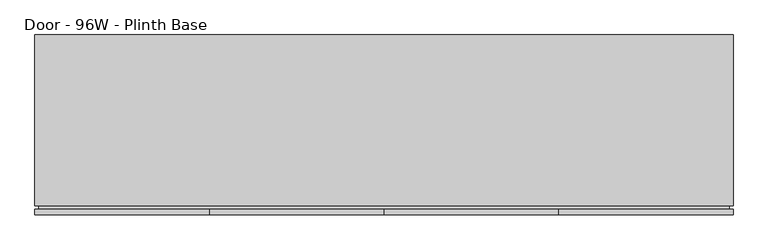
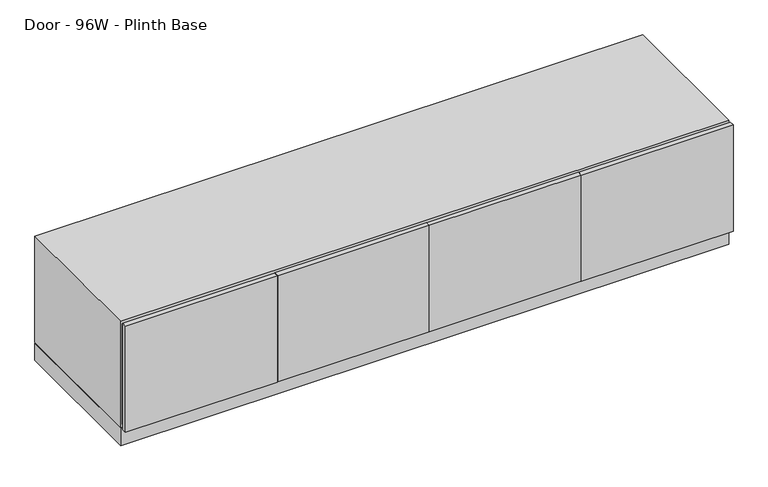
"""IFC4 building model written with IfcOpenShell, lengths in millimetres: furniture geometry, Steelcase Coalesse - Exponents - Storage - Credenza - 21H : Door - 96W - Plinth Base."""

import ifcopenshell
import ifcopenshell.guid

model = None  # the IFC model being written
_history = None  # IfcOwnerHistory: only IFC2X3 demands one
_inside = {}  # id of a spatial element -> (the spatial element, [elements in it])
_under = {}  # id of a project, library or spatial element -> (it, [spatial elements below it])
_declared = {}  # id of a project -> (the project, [libraries it declares])
_typed = {}  # id of a type object -> (the type object, [elements of that type])
_made_of = {}  # id of a material, layer set ... -> (it, [elements and type objects made of it])


def new_model(schema):
    """Start an empty IFC model of exactly this schema.

    Asked for "IFC4X3", IfcOpenShell would pick the latest addendum, in which some entities
    have other attributes; the version numbers below select the first issue.
    IFC2X3 requires an IfcOwnerHistory on every rooted entity: one is made here for all.
    """
    global model, _history
    if schema == "IFC4X3":
        model = ifcopenshell.file(schema_version=(4, 3, 0, 0))
    else:
        model = ifcopenshell.file(schema=schema)
    _inside.clear()
    _under.clear()
    _declared.clear()
    _typed.clear()
    _made_of.clear()
    _history = None
    if model.schema == "IFC2X3":
        org = make("IfcOrganization", Name="unknown")
        user = make(
            "IfcPersonAndOrganization",
            ThePerson=make("IfcPerson", FamilyName="unknown"),
            TheOrganization=org,
        )
        app = make(
            "IfcApplication",
            ApplicationDeveloper=org,
            Version="unknown",
            ApplicationFullName="unknown",
            ApplicationIdentifier="unknown",
        )
        _history = make(
            "IfcOwnerHistory",
            OwningUser=user,
            OwningApplication=app,
            ChangeAction="ADDED",
            CreationDate=0,
        )
    return model


def make(cls, **values):
    """One entity of the class cls with the attributes given. An attribute that is None is left unset."""
    return model.create_entity(
        cls, **{name: value for name, value in values.items() if value is not None}
    )


def rooted(cls, **values):
    """An entity with a GlobalId (a new one), such as an element, a storey or a relation."""
    return make(cls, GlobalId=ifcopenshell.guid.new(), OwnerHistory=_history, **values)


def si_unit(unit_type, name, prefix=None):
    """IfcSIUnit, for example si_unit("LENGTHUNIT", "METRE", prefix="MILLI")."""
    return make("IfcSIUnit", UnitType=unit_type, Prefix=prefix, Name=name)


def assignment(units):
    """IfcUnitAssignment: the units of a project."""
    return None if units is None else make("IfcUnitAssignment", Units=units)


def point(xyz):
    """IfcCartesianPoint."""
    return None if xyz is None else make("IfcCartesianPoint", Coordinates=xyz)


def direction(xyz):
    """IfcDirection."""
    return None if xyz is None else make("IfcDirection", DirectionRatios=xyz)


def frame(location, z_axis=None, x_axis=None):
    """IfcAxis2Placement3D, a coordinate frame: its origin and axes. An axis left out is left unset."""
    return make(
        "IfcAxis2Placement3D",
        Location=point(location),
        Axis=direction(z_axis),
        RefDirection=direction(x_axis),
    )


def frame_2d(location, x_axis=None):
    """IfcAxis2Placement2D, a coordinate frame in the plane: its origin and x axis."""
    return make(
        "IfcAxis2Placement2D", Location=point(location), RefDirection=direction(x_axis)
    )


def origin():
    """The frame at (0, 0, 0) with its axes left unset."""
    return frame((0.0, 0.0, 0.0))


def origin_with_axes():
    """The frame at (0, 0, 0) with the z axis (0, 0, 1) and the x axis (1, 0, 0) written out."""
    return frame((0.0, 0.0, 0.0), z_axis=(0.0, 0.0, 1.0), x_axis=(1.0, 0.0, 0.0))


def place(relative_to, where):
    """IfcLocalPlacement: puts the frame where relative to a parent placement (None: the world)."""
    return make(
        "IfcLocalPlacement", PlacementRelTo=relative_to, RelativePlacement=where
    )


def context(
    kind, dimensions, precision=None, world=None, true_north=None, identifier=None
):
    """IfcGeometricRepresentationContext, for example the 3D "Model" context."""
    return make(
        "IfcGeometricRepresentationContext",
        ContextIdentifier=identifier,
        ContextType=kind,
        CoordinateSpaceDimension=dimensions,
        Precision=precision,
        WorldCoordinateSystem=world,
        TrueNorth=true_north,
    )


def project(units=None, contexts=None):
    """IfcProject with its units and contexts."""
    return rooted(
        "IfcProject",
        Name="project",
        RepresentationContexts=contexts,
        UnitsInContext=assignment(units),
    )


def spatial(cls, under=None, at=None, **own):
    """A site, building, storey or space (cls), placed at a placement, below another one or the project."""
    s = rooted(cls, ObjectPlacement=at, **own)
    if under is not None:
        _under.setdefault(under.id(), (under, []))[1].append(s)
    return s


def polyline(points):
    """IfcPolyline through the points."""
    return make("IfcPolyline", Points=[point(p) for p in points])


def circle_curve(where, radius):
    """IfcCircle in the frame where."""
    return make("IfcCircle", Position=where, Radius=radius)


def trimmed(basis, trim1, trim2, sense, master):
    """IfcTrimmedCurve: the piece of a basis curve between two trims."""
    return make(
        "IfcTrimmedCurve",
        BasisCurve=basis,
        Trim1=trim1,
        Trim2=trim2,
        SenseAgreement=sense,
        MasterRepresentation=master,
    )


def segment(curve, same_sense, transition):
    """IfcCompositeCurveSegment."""
    return make(
        "IfcCompositeCurveSegment",
        Transition=transition,
        SameSense=same_sense,
        ParentCurve=curve,
    )


def composite_curve(segments, self_intersect=None):
    """IfcCompositeCurve: segments joined end to end."""
    return make("IfcCompositeCurve", Segments=segments, SelfIntersect=self_intersect)


def outline(outer, holes=None, kind="AREA"):
    """IfcArbitraryClosedProfileDef: a profile drawn as a closed curve; with holes, ...WithVoids."""
    if holes is None:
        return make("IfcArbitraryClosedProfileDef", ProfileType=kind, OuterCurve=outer)
    return make(
        "IfcArbitraryProfileDefWithVoids",
        ProfileType=kind,
        OuterCurve=outer,
        InnerCurves=holes,
    )


def extrude(swept, where, along, depth):
    """IfcExtrudedAreaSolid: the profile swept, set in the frame where, extruded along a direction by depth."""
    return make(
        "IfcExtrudedAreaSolid",
        SweptArea=swept,
        Position=where,
        ExtrudedDirection=direction(along),
        Depth=depth,
    )


def faces_of(points, faces, orient=None, outer=None):
    """IfcFace entities. A face is a list of loops; a loop is a list of indices into points, from 0.

    orient and outer hold one flag for each loop. By default every Orientation is true, the
    first loop of a face is its IfcFaceOuterBound and the others are IfcFaceBound.
    """
    made = []
    for i, loops in enumerate(faces):
        bounds = []
        for j, loop in enumerate(loops):
            is_outer = j == 0 if outer is None else outer[i][j]
            bounds.append(
                make(
                    "IfcFaceOuterBound" if is_outer else "IfcFaceBound",
                    Bound=make("IfcPolyLoop", Polygon=[points[k] for k in loop]),
                    Orientation=True if orient is None else orient[i][j],
                )
            )
        made.append(make("IfcFace", Bounds=bounds))
    return made


def faceted_brep(points, faces, orient=None, outer=None, voids=None):
    """IfcFacetedBrep: a solid bounded by flat faces; with voids (closed shells), ...WithVoids."""
    shared = [point(p) for p in points]
    hull = make("IfcClosedShell", CfsFaces=faces_of(shared, faces, orient, outer))
    if voids is None:
        return make("IfcFacetedBrep", Outer=hull)
    return make(
        "IfcFacetedBrepWithVoids",
        Outer=hull,
        Voids=[
            make(cls, CfsFaces=faces_of(shared, fs, o, b)) for cls, fs, o, b in voids
        ],
    )


def shape(context_of_items, identifier, shape_type, items):
    """IfcShapeRepresentation: the items that make up one representation, for example the "Body"."""
    return make(
        "IfcShapeRepresentation",
        ContextOfItems=context_of_items,
        RepresentationIdentifier=identifier,
        RepresentationType=shape_type,
        Items=items,
    )


def source(mapping_origin, context_of_items, identifier, shape_type, items):
    """IfcRepresentationMap: a shape defined once, which mapped items show again and again."""
    return make(
        "IfcRepresentationMap",
        MappingOrigin=mapping_origin,
        MappedRepresentation=shape(context_of_items, identifier, shape_type, items),
    )


def transform(
    local_origin,
    x_axis=None,
    y_axis=None,
    z_axis=None,
    scale=None,
    scale2=None,
    scale3=None,
    uniform=True,
):
    """IfcCartesianTransformationOperator3D, or its non-uniform kind. x_axis, y_axis, z_axis: its Axis1, 2, 3."""
    if uniform:
        return make(
            "IfcCartesianTransformationOperator3D",
            Axis1=direction(x_axis),
            Axis2=direction(y_axis),
            LocalOrigin=point(local_origin),
            Scale=scale,
            Axis3=direction(z_axis),
        )
    return make(
        "IfcCartesianTransformationOperator3DnonUniform",
        Axis1=direction(x_axis),
        Axis2=direction(y_axis),
        LocalOrigin=point(local_origin),
        Scale=scale,
        Axis3=direction(z_axis),
        Scale2=scale2,
        Scale3=scale3,
    )


def mapped(mapping_source, mapping_target):
    """IfcMappedItem: shows the shape of a source again, moved by a transform."""
    return make(
        "IfcMappedItem", MappingSource=mapping_source, MappingTarget=mapping_target
    )


def made_of(thing, what):
    """Note that an element or type object is made of a material, layer set ...; save() writes the relation."""
    if what is not None:
        _made_of.setdefault(what.id(), (what, []))[1].append(thing)
    return thing


def element(
    cls,
    number,
    at=None,
    inside=None,
    cuts=None,
    type_object=None,
    material=None,
    context=None,
    identifier="Body",
    shape_type=None,
    held_by="IfcProductDefinitionShape",
    body=None,
    shapes=None,
    **own,
):
    """One element of the class cls, such as IfcWall. Its Tag is "e" and its number.

    at: its placement. inside: the storey or other place that contains it. cuts: it is an
    opening in that element (IfcRelVoidsElement). A single representation is given by context,
    identifier, shape_type and body (its items); several are given by shapes. held_by: the class
    of the entity that holds the representations. save() writes the other relations.
    """
    e = rooted(cls, Tag="e%d" % number, ObjectPlacement=at, **own)
    if body is not None:
        shapes = [shape(context, identifier, shape_type, body)]
    if shapes is not None:
        e.Representation = make(held_by, Representations=shapes)
    if inside is not None:
        _inside.setdefault(inside.id(), (inside, []))[1].append(e)
    if cuts is not None:
        rooted(
            "IfcRelVoidsElement", RelatingBuildingElement=cuts, RelatedOpeningElement=e
        )
    if type_object is not None:
        _typed.setdefault(type_object.id(), (type_object, []))[1].append(e)
    return made_of(e, material)


def aggregate(whole, parts):
    """IfcRelAggregates: a whole, such as a stair, and the parts it consists of."""
    return rooted("IfcRelAggregates", RelatingObject=whole, RelatedObjects=parts)


def save(model, path):
    """Write the relations noted so far, then the file.

    IfcRelAggregates (storeys below a building ...), IfcRelContainedInSpatialStructure (elements
    in a storey), IfcRelDefinesByType, IfcRelAssociatesMaterial and IfcRelDeclares: one each for
    every whole, place, type object, material and project.
    """
    for whole, parts in _under.values():
        aggregate(whole, parts)
    for where, things in _inside.values():
        rooted(
            "IfcRelContainedInSpatialStructure",
            RelatedElements=things,
            RelatingStructure=where,
        )
    for kind, things in _typed.values():
        rooted("IfcRelDefinesByType", RelatedObjects=things, RelatingType=kind)
    for what, things in _made_of.values():
        rooted("IfcRelAssociatesMaterial", RelatedObjects=things, RelatingMaterial=what)
    for by, libraries in _declared.values():
        rooted("IfcRelDeclares", RelatingContext=by, RelatedDefinitions=libraries)
    model.write(path)


def door_96w_plinth_base_6646c0f9(model_context):
    return source(origin(), model_context, "Body", "SolidModel", [
        faceted_brep([(6.35, 31.75, 520.7), (6.35, 31.75, 95.25), (6.35, 622.3, 95.25), (6.35, 622.3, 520.7), (2432.05, 622.3, 95.25), (2432.05, 622.3, 520.7), (2432.05, 31.75, 95.25), (2432.05, 31.75, 520.7), (0.0, 31.75, 82.55), (2438.4, 31.75, 82.55), (2438.4, 31.75, 533.4), (0.0, 31.75, 533.4), (2438.4, 628.65, 82.55), (2438.4, 628.65, 533.4), (0.0, 628.65, 82.55), (0.0, 628.65, 533.4)], [[[0, 1, 2, 3]], [[3, 2, 4, 5]], [[5, 4, 6, 7]], [[8, 9, 10, 11], [7, 6, 1, 0]], [[10, 9, 12, 13]], [[13, 12, 14, 15]], [[15, 14, 8, 11]], [[7, 0, 3, 5]], [[10, 13, 15, 11]], [[1, 6, 4, 2]], [[12, 9, 8, 14]]]),
        extrude(outline(polyline([(520.7, 2425.7), (520.7, 12.7), (95.25, 12.7), (95.25, 2425.7), (520.7, 2425.7)]), holes=[polyline([(514.35, 2419.35), (101.6, 2419.35), (101.6, 19.05), (514.35, 19.05), (514.35, 2419.35)])]), frame((0.0, 19.05, 0.0), z_axis=(0.0, 1.0, 0.0), x_axis=(0.0, 0.0, 1.0)), (0.0, 0.0, 1.0), 31.75),
        extrude(outline(composite_curve([segment(trimmed(circle_curve(frame_2d((19.05, 593.5667033)), 6.35), [point((12.7, 593.5667033))], [point((25.4, 593.5667033))], False, "CARTESIAN"), True, "CONTINUOUS"), segment(trimmed(circle_curve(frame_2d((19.05, 593.5667033)), 6.35), [point((25.4, 593.5667033))], [point((12.7, 593.5667033))], False, "CARTESIAN"), True, "CONTINUOUS")], self_intersect=False)), origin_with_axes(), (0.0, 0.0, 1.0), 6.35),
        extrude(outline(composite_curve([segment(trimmed(circle_curve(frame_2d((19.05, 66.7867854)), 6.35), [point((12.7, 66.7867854))], [point((25.4, 66.7867854))], False, "CARTESIAN"), True, "CONTINUOUS"), segment(trimmed(circle_curve(frame_2d((19.05, 66.7867854)), 6.35), [point((25.4, 66.7867854))], [point((12.7, 66.7867854))], False, "CARTESIAN"), True, "CONTINUOUS")], self_intersect=False)), origin_with_axes(), (0.0, 0.0, 1.0), 6.35),
        extrude(outline(composite_curve([segment(trimmed(circle_curve(frame_2d((2419.35, 593.5667033)), 6.35), [point((2413.0, 593.5667033))], [point((2425.7, 593.5667033))], False, "CARTESIAN"), True, "CONTINUOUS"), segment(trimmed(circle_curve(frame_2d((2419.35, 593.5667033)), 6.35), [point((2425.7, 593.5667033))], [point((2413.0, 593.5667033))], False, "CARTESIAN"), True, "CONTINUOUS")], self_intersect=False)), origin_with_axes(), (0.0, 0.0, 1.0), 6.35),
        extrude(outline(composite_curve([segment(trimmed(circle_curve(frame_2d((2419.35, 66.7867854)), 6.35), [point((2413.0, 66.7867854))], [point((2425.7, 66.7867854))], False, "CARTESIAN"), True, "CONTINUOUS"), segment(trimmed(circle_curve(frame_2d((2419.35, 66.7867854)), 6.35), [point((2425.7, 66.7867854))], [point((2413.0, 66.7867854))], False, "CARTESIAN"), True, "CONTINUOUS")], self_intersect=False)), origin_with_axes(), (0.0, 0.0, 1.0), 6.35),
        extrude(outline(polyline([(2438.4, 19.05), (2438.4, 0.0), (1829.435, 0.0), (1829.435, 19.05), (2438.4, 19.05)])), frame((0.0, 0.0, 82.55), z_axis=(0.0, 0.0, 1.0), x_axis=(1.0, 0.0, 0.0)), (0.0, 0.0, 1.0), 450.85),
        extrude(outline(polyline([(1827.8348, 19.05), (1827.8348, 0.0), (1220.0128, 0.0), (1220.0128, 19.05), (1827.8348, 19.05)])), frame((0.0, 0.0, 82.55), z_axis=(0.0, 0.0, 1.0), x_axis=(1.0, 0.0, 0.0)), (0.0, 0.0, 1.0), 450.85),
        extrude(outline(polyline([(1218.4126, 19.05), (1218.4126, 0.0), (610.5652, 0.0), (610.5652, 19.05), (1218.4126, 19.05)])), frame((0.0, 0.0, 82.55), z_axis=(0.0, 0.0, 1.0), x_axis=(1.0, 0.0, 0.0)), (0.0, 0.0, 1.0), 450.85),
        extrude(outline(polyline([(608.965, 19.05), (608.965, 0.0), (0.0, 0.0), (0.0, 19.05), (608.965, 19.05)])), frame((0.0, 0.0, 82.55), z_axis=(0.0, 0.0, 1.0), x_axis=(1.0, 0.0, 0.0)), (0.0, 0.0, 1.0), 450.85),
        extrude(outline(polyline([(0.0, -19.05), (0.0, 0.0), (31.75, 0.0), (31.75, -19.05), (0.0, -19.05)])), frame((1828.8, 19.05, 101.6), z_axis=(2.934541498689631e-12, 0.0, 1.0), x_axis=(0.0, 1.0, 0.0)), (0.0, 0.0, 1.0), 412.75),
        extrude(outline(polyline([(0.0, -19.05), (0.0, 0.0), (31.75, 0.0), (31.75, -19.05), (0.0, -19.05)])), frame((1209.675, 19.05, 101.6), z_axis=(3.1477043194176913e-12, 0.0, 1.0), x_axis=(0.0, 1.0, 0.0)), (0.0, 0.0, 1.0), 412.75),
        extrude(outline(polyline([(0.0, -19.05), (0.0, 0.0), (31.75, 0.0), (31.75, -19.05), (0.0, -19.05)])), frame((590.55, 19.05, 101.6), z_axis=(3.3608671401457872e-12, 0.0, 1.0), x_axis=(0.0, 1.0, 0.0)), (0.0, 0.0, 1.0), 412.75),
        extrude(outline(polyline([(1209.675, 609.6), (1228.725, 609.6), (1228.725, 50.8), (1209.675, 50.8), (1209.675, 609.6)])), frame((0.0, 0.0, 95.25), z_axis=(0.0, 0.0, 1.0), x_axis=(1.0, 0.0, 0.0)), (0.0, 0.0, 1.0), 425.45),
        extrude(outline(polyline([(1828.8, 609.6), (1847.85, 609.6), (1847.85, 50.8), (1828.8, 50.8), (1828.8, 609.6)])), frame((0.0, 0.0, 95.25), z_axis=(0.0, 0.0, 1.0), x_axis=(1.0, 0.0, 0.0)), (0.0, 0.0, 1.0), 425.45),
        extrude(outline(polyline([(1828.8, 50.8), (1228.725, 50.8), (1228.725, 609.6), (1828.8, 609.6), (1828.8, 50.8)])), frame((0.0, 0.0, 295.275), z_axis=(0.0, 0.0, 1.0), x_axis=(1.0, 0.0, 0.0)), (0.0, 0.0, 1.0), 19.05),
        extrude(outline(polyline([(1209.675, 50.8), (609.6, 50.8), (609.6, 609.6), (1209.675, 609.6), (1209.675, 50.8)])), frame((0.0, 0.0, 295.275), z_axis=(0.0, 0.0, 1.0), x_axis=(1.0, 0.0, 0.0)), (0.0, 0.0, 1.0), 19.05),
        extrude(outline(polyline([(2438.4, 628.65), (2438.4, 31.75), (0.0, 31.75), (0.0, 628.65), (2438.4, 628.65)]), holes=[polyline([(2419.35, 622.3), (19.05, 622.3), (19.05, 38.1), (2419.35, 38.1), (2419.35, 622.3)])]), frame((0.0, 0.0, 6.35), z_axis=(0.0, 0.0, 1.0), x_axis=(1.0, 0.0, 0.0)), (0.0, 0.0, 1.0), 73.4568),
        extrude(outline(polyline([(590.55, 609.6), (609.6, 609.6), (609.6, 50.8), (590.55, 50.8), (590.55, 609.6)])), frame((0.0, 0.0, 95.25), z_axis=(0.0, 0.0, 1.0), x_axis=(1.0, 0.0, 0.0)), (0.0, 0.0, 1.0), 425.45),
    ])


if __name__ == "__main__":
    model = new_model("IFC4")
    model_context = context("Model", 3, world=origin())
    ifc_project = project(units=[si_unit("LENGTHUNIT", "METRE", prefix="MILLI")], contexts=[model_context])
    site = spatial("IfcSite", under=ifc_project)
    building = spatial("IfcBuilding", under=site)
    placement = place(None, origin())
    door_96w_plinth_base_shape = door_96w_plinth_base_6646c0f9(model_context)
    element("IfcFurniture", 1, ObjectType="Steelcase Coalesse - Exponents - Storage - Credenza - 21H : Door - 96W - Plinth Base", at=placement, inside=building, context=model_context, shape_type="MappedRepresentation", body=[
        mapped(door_96w_plinth_base_shape, transform((0.0, 0.0, 0.0), x_axis=(1.0, 0.0, 0.0), y_axis=(0.0, 1.0, 0.0), z_axis=(0.0, 0.0, 1.0))),
    ])
    save(model, "model.ifc")
